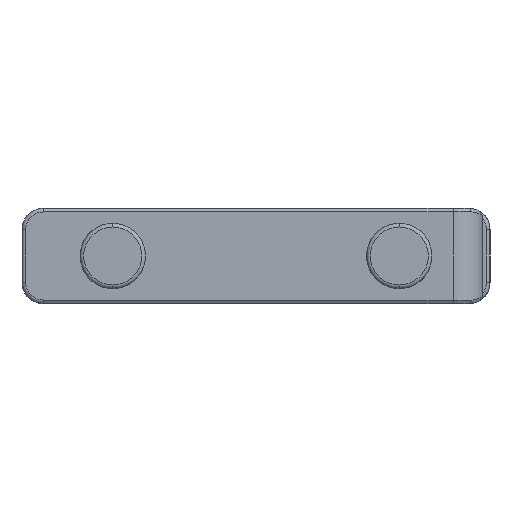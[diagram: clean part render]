
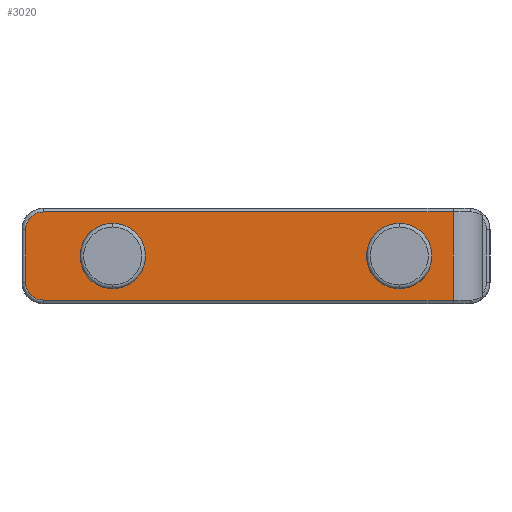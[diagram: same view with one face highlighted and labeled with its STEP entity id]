
A CAD part, left-side view. The second image highlights one B-rep face of the part: STEP entity #3020.
In plain terms, the highlighted planar face has unit normal (-1, 0, 0).
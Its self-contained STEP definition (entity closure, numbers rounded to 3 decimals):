
#5 = EDGE_CURVE ( 'NONE', #3210, #3209, #2903, .T. ) ;
#10 = VERTEX_POINT ( 'NONE', #807 ) ;
#166 = EDGE_CURVE ( 'NONE', #10, #167, #1034, .T. ) ;
#167 = VERTEX_POINT ( 'NONE', #1089 ) ;
#398 = VERTEX_POINT ( 'NONE', #1222 ) ;
#414 = EDGE_CURVE ( 'NONE', #398, #416, #1312, .T. ) ;
#416 = VERTEX_POINT ( 'NONE', #1303 ) ;
#807 = CARTESIAN_POINT ( 'NONE',  ( -308.2, 19.5, 4.45 ) ) ;
#1031 = DIRECTION ( 'NONE',  ( -1., 0., 0. ) ) ;
#1032 = CARTESIAN_POINT ( 'NONE',  ( -308.2, 19.5, 0. ) ) ;
#1033 = AXIS2_PLACEMENT_3D ( 'NONE', #1032, #1031, #1090 ) ;
#1034 = CIRCLE ( 'NONE', #1033, 4.45 ) ;
#1089 = CARTESIAN_POINT ( 'NONE',  ( -308.2, 19.5, -4.45 ) ) ;
#1090 = DIRECTION ( 'NONE',  ( 0., 0., -1. ) ) ;
#1222 = CARTESIAN_POINT ( 'NONE',  ( -308.2, -19.5, 4.45 ) ) ;
#1303 = CARTESIAN_POINT ( 'NONE',  ( -308.2, -19.5, -4.45 ) ) ;
#1308 = DIRECTION ( 'NONE',  ( 0., 0., -1. ) ) ;
#1309 = DIRECTION ( 'NONE',  ( -1., 0., 0. ) ) ;
#1310 = CARTESIAN_POINT ( 'NONE',  ( -308.2, -19.5, 0. ) ) ;
#1311 = AXIS2_PLACEMENT_3D ( 'NONE', #1310, #1309, #1308 ) ;
#1312 = CIRCLE ( 'NONE', #1311, 4.45 ) ;
#2050 = DIRECTION ( 'NONE',  ( 0., 0., -1. ) ) ;
#2051 = DIRECTION ( 'NONE',  ( -1., 0., 0. ) ) ;
#2052 = CARTESIAN_POINT ( 'NONE',  ( -308.2, 19.5, 0. ) ) ;
#2053 = AXIS2_PLACEMENT_3D ( 'NONE', #2052, #2051, #2050 ) ;
#2059 = CIRCLE ( 'NONE', #2053, 4.45 ) ;
#2135 = CARTESIAN_POINT ( 'NONE',  ( -308.2, 28.95, 6. ) ) ;
#2140 = DIRECTION ( 'NONE',  ( 0., 1., 0. ) ) ;
#2141 = VECTOR ( 'NONE', #2140, 1000. ) ;
#2142 = CARTESIAN_POINT ( 'NONE',  ( -308.2, 28.95, 6. ) ) ;
#2143 = LINE ( 'NONE', #2142, #2141 ) ;
#2165 = DIRECTION ( 'NONE',  ( 0., 0., -1. ) ) ;
#2166 = VECTOR ( 'NONE', #2165, 1000. ) ;
#2167 = CARTESIAN_POINT ( 'NONE',  ( -308.2, -26.82, -7.5 ) ) ;
#2168 = LINE ( 'NONE', #2167, #2166 ) ;
#2187 = DIRECTION ( 'NONE',  ( 0., 0., -1. ) ) ;
#2188 = DIRECTION ( 'NONE',  ( 1., 0., 0. ) ) ;
#2189 = CARTESIAN_POINT ( 'NONE',  ( -308.2, -27.9, -2.9 ) ) ;
#2190 = AXIS2_PLACEMENT_3D ( 'NONE', #2189, #2188, #2187 ) ;
#2192 = PLANE ( 'NONE',  #2190 ) ;
#2193 = FACE_BOUND ( 'NONE', #3195, .T. ) ;
#2194 = FACE_OUTER_BOUND ( 'NONE', #2973, .T. ) ;
#2200 = FACE_BOUND ( 'NONE', #3019, .T. ) ;
#2201 = CARTESIAN_POINT ( 'NONE',  ( -308.2, -26.82, -6. ) ) ;
#2202 = CARTESIAN_POINT ( 'NONE',  ( -308.2, -26.82, 6. ) ) ;
#2802 = DIRECTION ( 'NONE',  ( 0., 0., -1. ) ) ;
#2803 = DIRECTION ( 'NONE',  ( -1., 0., 0. ) ) ;
#2804 = CARTESIAN_POINT ( 'NONE',  ( -308.2, 28.95, -3.6 ) ) ;
#2805 = AXIS2_PLACEMENT_3D ( 'NONE', #2804, #2803, #2802 ) ;
#2806 = CIRCLE ( 'NONE', #2805, 2.4 ) ;
#2811 = DIRECTION ( 'NONE',  ( 0., -1., 0. ) ) ;
#2812 = VECTOR ( 'NONE', #2811, 1000. ) ;
#2813 = CARTESIAN_POINT ( 'NONE',  ( -308.2, -26.82, -6. ) ) ;
#2814 = LINE ( 'NONE', #2813, #2812 ) ;
#2815 = CARTESIAN_POINT ( 'NONE',  ( -308.2, 28.95, -6. ) ) ;
#2816 = DIRECTION ( 'NONE',  ( 0., 0., -1. ) ) ;
#2817 = DIRECTION ( 'NONE',  ( -1., 0., 0. ) ) ;
#2818 = CARTESIAN_POINT ( 'NONE',  ( -308.2, -19.5, 0. ) ) ;
#2819 = AXIS2_PLACEMENT_3D ( 'NONE', #2818, #2817, #2816 ) ;
#2823 = CIRCLE ( 'NONE', #2819, 4.45 ) ;
#2842 = CARTESIAN_POINT ( 'NONE',  ( -308.2, 31.35, 3.6 ) ) ;
#2843 = CARTESIAN_POINT ( 'NONE',  ( -308.2, 31.35, -3.6 ) ) ;
#2844 = DIRECTION ( 'NONE',  ( 0., 0., -1. ) ) ;
#2845 = DIRECTION ( 'NONE',  ( -1., 0., 0. ) ) ;
#2846 = CARTESIAN_POINT ( 'NONE',  ( -308.2, 28.95, 3.6 ) ) ;
#2847 = AXIS2_PLACEMENT_3D ( 'NONE', #2846, #2845, #2844 ) ;
#2848 = CIRCLE ( 'NONE', #2847, 2.4 ) ;
#2903 = LINE ( 'NONE', #2904, #2905 ) ;
#2904 = CARTESIAN_POINT ( 'NONE',  ( -308.2, 31.35, -3.6 ) ) ;
#2905 = VECTOR ( 'NONE', #2911, 1000. ) ;
#2911 = DIRECTION ( 'NONE',  ( 0., 0., -1. ) ) ;
#2956 = EDGE_CURVE ( 'NONE', #167, #10, #2059, .T. ) ;
#2972 = ORIENTED_EDGE ( 'NONE', *, *, #166, .F. ) ;
#2973 = EDGE_LOOP ( 'NONE', ( #3008, #3011, #3009, #3200, #3201, #3159 ) ) ;
#2995 = EDGE_CURVE ( 'NONE', #3016, #3017, #2168, .T. ) ;
#2996 = ORIENTED_EDGE ( 'NONE', *, *, #2956, .F. ) ;
#3008 = ORIENTED_EDGE ( 'NONE', *, *, #2995, .F. ) ;
#3009 = ORIENTED_EDGE ( 'NONE', *, *, #3208, .T. ) ;
#3010 = EDGE_CURVE ( 'NONE', #3016, #3015, #2143, .T. ) ;
#3011 = ORIENTED_EDGE ( 'NONE', *, *, #3010, .T. ) ;
#3015 = VERTEX_POINT ( 'NONE', #2135 ) ;
#3016 = VERTEX_POINT ( 'NONE', #2202 ) ;
#3017 = VERTEX_POINT ( 'NONE', #2201 ) ;
#3019 = EDGE_LOOP ( 'NONE', ( #2996, #2972 ) ) ;
#3020 = ADVANCED_FACE ( 'NONE', ( #2200, #2194, #2193 ), #2192, .F. ) ;
#3159 = ORIENTED_EDGE ( 'NONE', *, *, #3194, .T. ) ;
#3191 = EDGE_CURVE ( 'NONE', #416, #398, #2823, .T. ) ;
#3192 = ORIENTED_EDGE ( 'NONE', *, *, #3191, .F. ) ;
#3193 = VERTEX_POINT ( 'NONE', #2815 ) ;
#3194 = EDGE_CURVE ( 'NONE', #3193, #3017, #2814, .T. ) ;
#3195 = EDGE_LOOP ( 'NONE', ( #3192, #3196 ) ) ;
#3196 = ORIENTED_EDGE ( 'NONE', *, *, #414, .F. ) ;
#3200 = ORIENTED_EDGE ( 'NONE', *, *, #5, .T. ) ;
#3201 = ORIENTED_EDGE ( 'NONE', *, *, #3202, .T. ) ;
#3202 = EDGE_CURVE ( 'NONE', #3209, #3193, #2806, .T. ) ;
#3208 = EDGE_CURVE ( 'NONE', #3015, #3210, #2848, .T. ) ;
#3209 = VERTEX_POINT ( 'NONE', #2843 ) ;
#3210 = VERTEX_POINT ( 'NONE', #2842 ) ;
